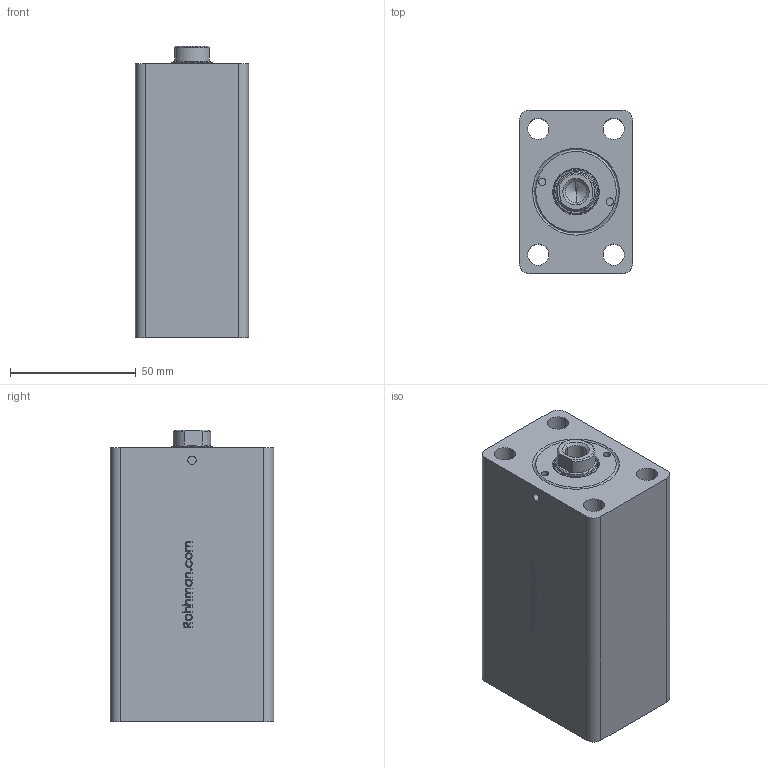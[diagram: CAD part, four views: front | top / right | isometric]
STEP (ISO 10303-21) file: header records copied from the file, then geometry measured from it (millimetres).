
FILE_DESCRIPTION (( 'STEP AP214' ), '1' );
FILE_NAME ('KBZ_02_25_16_65.STEP', '2022-09-03T18:06:13', ( '' ), ( '' ), 'SwSTEP 2.0', 'SolidWorks 2021', '' );
FILE_SCHEMA (( 'AUTOMOTIVE_DESIGN' ));
Length unit declared in the file: millimetre
Products named in the file (9): 16_18_PAP_16_18_5_PAP; 16_K_MIL_WEB; KO-22X2_5; KBZ_02_25_25_GOVDE_WEB; K06-16X22_8X3_1X4 (K016_3); K22-16X20_5X5; KBZ_03_25_16_ON_KAPAK; KBZ_02_25_16_65; KBZ_03_25_16_烰_KAPAK
Assembly tree (8 placements, depth 3):
  KBZ_02_25_16_65
    KBZ_02_25_25_GOVDE_WEB
    16_K_MIL_WEB
    KBZ_03_25_16_烰_KAPAK
      KBZ_03_25_16_ON_KAPAK
      K22-16X20_5X5
      K06-16X22_8X3_1X4 (K016_3)
      KO-22X2_5
      16_18_PAP_16_18_5_PAP
Bounding box: 45 x 65 x 116 mm (x, y, z)
Volume: 272172.1 mm3; surface area: 59003.1 mm2
Topology: 7 solids, 7 shells, 387 faces, 920 edges, 580 vertices
Faces by surface type: bspline 130, plane 117, cylinder 79, cone 53, torus 8
Entity records: 16653 total; most frequent: CARTESIAN_POINT 8020, ORIENTED_EDGE 1836, DIRECTION 1410, EDGE_CURVE 918, VERTEX_POINT 580, AXIS2_PLACEMENT_3D 494, EDGE_LOOP 444, VECTOR 422
